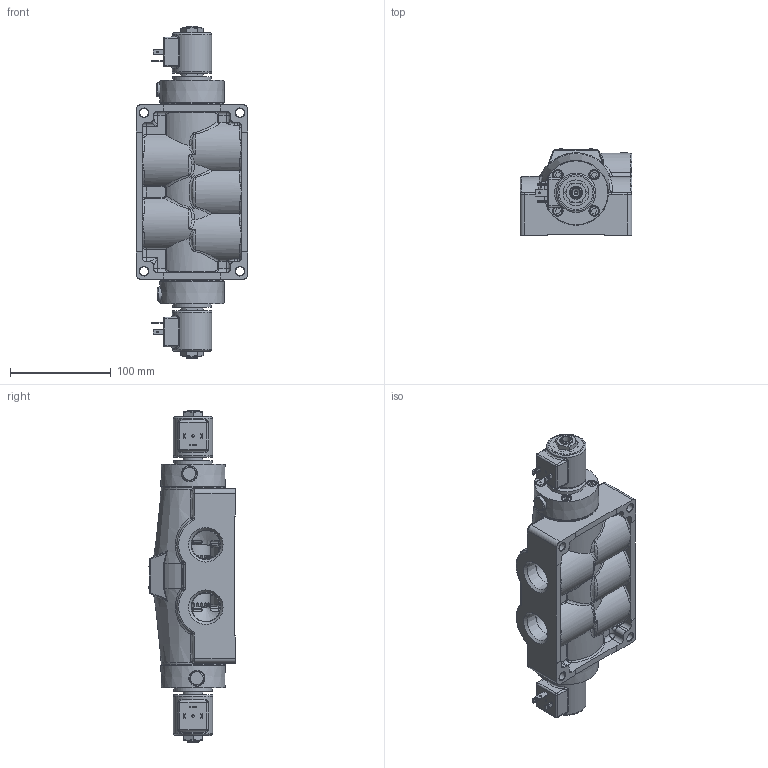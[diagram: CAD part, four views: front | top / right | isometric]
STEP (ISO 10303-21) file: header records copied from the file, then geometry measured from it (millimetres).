
FILE_DESCRIPTION(/* description */ (''),/* implementation_level */ '2;1');
FILE_NAME(/* name */ 'D:\Website New\Valves\Classic\SS\stp\SS8EDOPT.stp',/* time_stamp */ '2020-04-12T10:13:54-04:00',/* author */ ('RMcKenna'),/* organization */ (''),/* preprocessor_version */ 'ST-DEVELOPER v17',/* originating_system */ 'Autodesk Inventor 2018',/* authorisation */ '');
FILE_SCHEMA (('AUTOMOTIVE_DESIGN { 1 0 10303 214 3 1 1 }'));
Products named in the file (1): Part8
Bounding box: 111.12 x 86.28 x 329.41 mm (x, y, z)
Volume: 1162971.5 mm3; surface area: 233316.5 mm2
Topology: 4 solids, 30 shells, 2357 faces, 5752 edges, 3569 vertices
Faces by surface type: plane 837, cylinder 518, cone 393, bspline 333, torus 184, sphere 92
Full cylindrical faces by diameter (mm): 1.041 x2, 1.6 x6, 2.07 x2, 2.261 x2, 2.381 x2, 2.54 x2, 2.778 x2, 3.048 x2, 3.175 x8, 3.302 x2, 3.962 x4, 4.978 x8, 5.639 x2, 6.35 x8, 6.629 x2, 7.144 x8, 7.95 x2, 8.712 x4, 9.144 x2, 9.462 x4, 9.474 x4, 9.525 x10, 11.43 x2, 11.836 x4, 12.598 x2, 12.7 x2, 13.106 x2, 13.462 x2, 13.494 x2, 14.287 x2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
Entity records: 95761 total; most frequent: CARTESIAN_POINT 40272, ORIENTED_EDGE 11350, DIRECTION 10645, EDGE_CURVE 5675, AXIS2_PLACEMENT_3D 4244, VERTEX_POINT 3569, EDGE_LOOP 2630, FACE_OUTER_BOUND 2357
